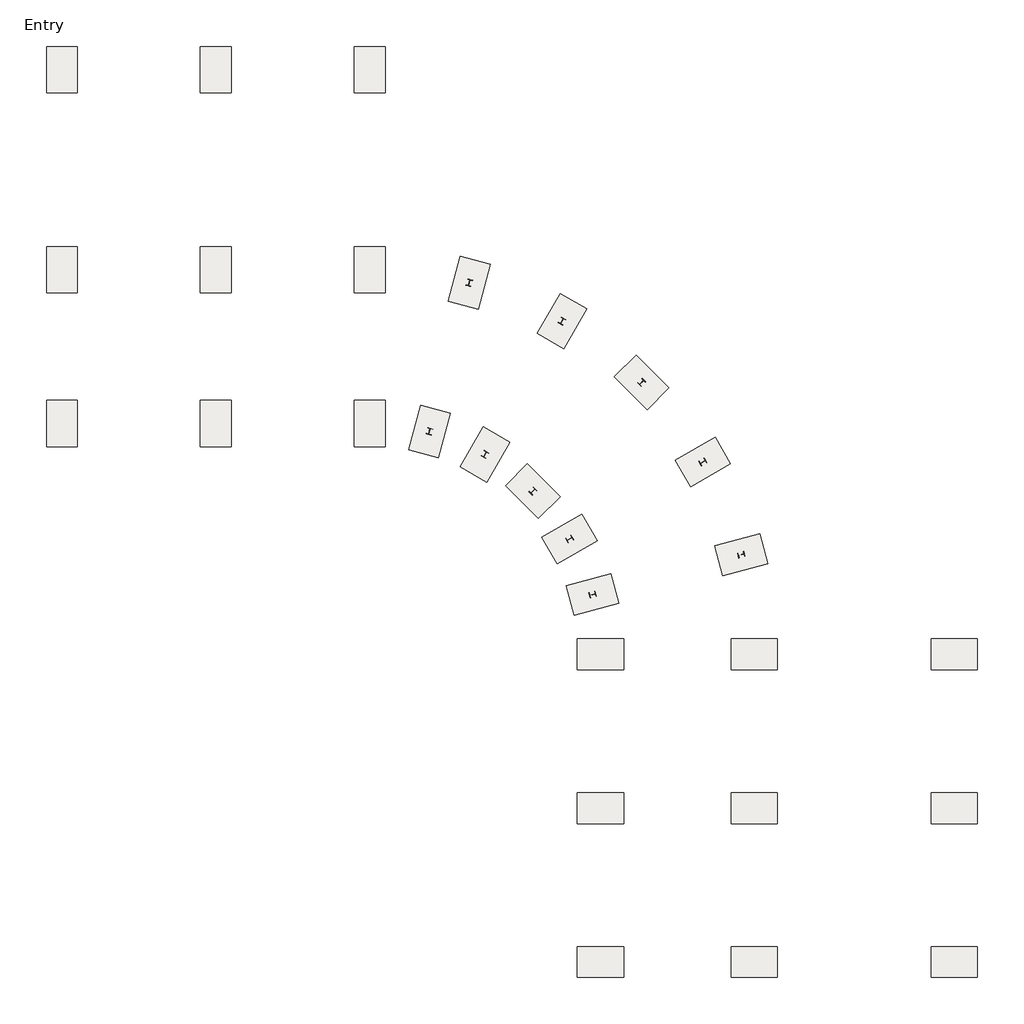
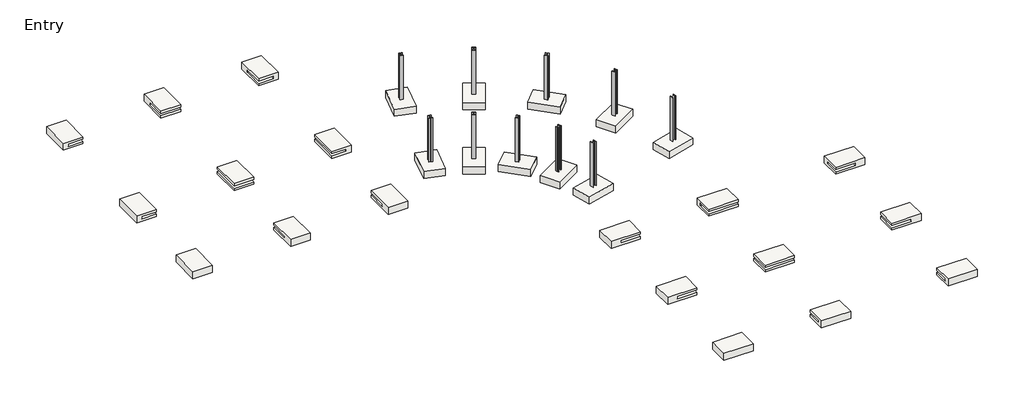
# One storey: 28 slabs, 10 columns.
"""IFC4 building model written with IfcOpenShell, lengths in millimetres."""

from ifc_helpers import new_model, si_unit, frame, origin, place, context, project, spatial, polyline, outline, extrude, faceted_brep, transform, mapped, element, save
from components import w_shapes_column_w10x33_0c464d31, slab_5ba74754

model = new_model("IFC4")

# Units and contexts
model_context = context("Model", 3, world=origin())
ifc_project = project(units=[si_unit("LENGTHUNIT", "METRE", prefix="MILLI")], contexts=[model_context])

# Site, building, storey
site = spatial("IfcSite", under=ifc_project)
building = spatial("IfcBuilding", under=site)
storey = spatial("IfcBuildingStorey", under=building, Name="Entry", Elevation=0.0)

# Columns
placement = place(None, origin())
w_shapes_column_w10x33_shape = w_shapes_column_w10x33_0c464d31(model_context)
element("IfcColumn", 1, ObjectType="W Shapes-Column : W10X33", at=placement, inside=storey, context=model_context, shape_type="MappedRepresentation", body=[
    mapped(w_shapes_column_w10x33_shape, transform((-11393.506986, -10943.4405019, 0.0), x_axis=(-0.2588190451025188, 0.9659258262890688, 0.0), y_axis=(-0.9659258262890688, -0.2588190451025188, 0.0), z_axis=(0.0, 0.0, 1.0))),
])
element("IfcColumn", 2, ObjectType="W Shapes-Column : W10X33", at=placement, inside=storey, context=model_context, shape_type="MappedRepresentation", body=[
    mapped(w_shapes_column_w10x33_shape, transform((-5505.223149, -9365.679603, 0.0), x_axis=(-0.2588190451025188, 0.9659258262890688, 0.0), y_axis=(-0.9659258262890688, -0.2588190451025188, 0.0), z_axis=(0.0, 0.0, 1.0))),
])
element("IfcColumn", 3, ObjectType="W Shapes-Column : W10X33", at=placement, inside=storey, context=model_context, shape_type="MappedRepresentation", body=[
    mapped(w_shapes_column_w10x33_shape, transform((-12306.9964494, -8738.0818503, 0.0), x_axis=(-0.49999999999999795, 0.8660254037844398, 0.0), y_axis=(-0.8660254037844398, -0.49999999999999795, 0.0), z_axis=(0.0, 0.0, 1.0))),
])
element("IfcColumn", 4, ObjectType="W Shapes-Column : W10X33", at=placement, inside=storey, context=model_context, shape_type="MappedRepresentation", body=[
    mapped(w_shapes_column_w10x33_shape, transform((-7027.7055879, -5690.0818503, 0.0), x_axis=(-0.49999999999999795, 0.8660254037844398, 0.0), y_axis=(-0.8660254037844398, -0.49999999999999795, 0.0), z_axis=(0.0, 0.0, 1.0))),
])
element("IfcColumn", 5, ObjectType="W Shapes-Column : W10X33", at=placement, inside=storey, context=model_context, shape_type="MappedRepresentation", body=[
    mapped(w_shapes_column_w10x33_shape, transform((-13760.1483344, -6844.2974432, 0.0), x_axis=(0.7071067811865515, -0.7071067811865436, 0.0), y_axis=(0.7071067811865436, 0.7071067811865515, 0.0), z_axis=(0.0, 0.0, 1.0))),
])
element("IfcColumn", 6, ObjectType="W Shapes-Column : W10X33", at=placement, inside=storey, context=model_context, shape_type="MappedRepresentation", body=[
    mapped(w_shapes_column_w10x33_shape, transform((-9449.6253963, -2533.7745051, 0.0), x_axis=(0.7071067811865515, -0.7071067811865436, 0.0), y_axis=(0.7071067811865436, 0.7071067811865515, 0.0), z_axis=(0.0, 0.0, 1.0))),
])
element("IfcColumn", 7, ObjectType="W Shapes-Column : W10X33", at=placement, inside=storey, context=model_context, shape_type="MappedRepresentation", body=[
    mapped(w_shapes_column_w10x33_shape, transform((-15653.9327416, -5391.1455581, 0.0), x_axis=(0.8660254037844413, -0.49999999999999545, 0.0), y_axis=(0.49999999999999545, 0.8660254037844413, 0.0), z_axis=(0.0, 0.0, 1.0))),
])
element("IfcColumn", 8, ObjectType="W Shapes-Column : W10X33", at=placement, inside=storey, context=model_context, shape_type="MappedRepresentation", body=[
    mapped(w_shapes_column_w10x33_shape, transform((-12605.9327416, -111.8546967, 0.0), x_axis=(0.8660254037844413, -0.49999999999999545, 0.0), y_axis=(0.49999999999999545, 0.8660254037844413, 0.0), z_axis=(0.0, 0.0, 1.0))),
])
element("IfcColumn", 9, ObjectType="W Shapes-Column : W10X33", at=placement, inside=storey, context=model_context, shape_type="MappedRepresentation", body=[
    mapped(w_shapes_column_w10x33_shape, transform((-17859.2913932, -4477.6560948, 0.0), x_axis=(0.9659258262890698, -0.25881904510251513, 0.0), y_axis=(0.25881904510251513, 0.9659258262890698, 0.0), z_axis=(0.0, 0.0, 1.0))),
])
element("IfcColumn", 10, ObjectType="W Shapes-Column : W10X33", at=placement, inside=storey, context=model_context, shape_type="MappedRepresentation", body=[
    mapped(w_shapes_column_w10x33_shape, transform((-16281.5304942, 1410.6277423, 0.0), x_axis=(0.9659258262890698, -0.25881904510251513, 0.0), y_axis=(0.25881904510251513, 0.9659258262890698, 0.0), z_axis=(0.0, 0.0, 1.0))),
])

# Slabs
element("IfcSlab", 11, ObjectType="Footing-Rectangular : 72\" x 48\" x 18\"", at=placement, inside=storey, context=model_context, shape_type="Brep", body=[
    faceted_brep([(-20835.5327416, 8940.3181497, -1676.4), (-19616.3327416, 8940.3181497, -1676.4), (-19616.3327416, 10769.1181497, -1676.4), (-20835.5327416, 10769.1181497, -1676.4), (-20835.5327416, 8940.3181497, -2133.6), (-20835.5327416, 10769.1181497, -2133.6), (-19616.3327416, 10769.1181497, -2133.6), (-19616.3327416, 8940.3181497, -2133.6), (-20835.5327416, 8940.3181497, -1828.8), (-19921.1327416, 8940.3181497, -1828.8), (-19921.1327416, 8940.3181497, -1981.2), (-20835.5327416, 8940.3181497, -1981.2), (-20835.5327416, 10159.5181497, -1981.2), (-20835.5327416, 10159.5181497, -1828.8), (-19921.1327416, 10159.5181497, -1981.2), (-19921.1327416, 10159.5181497, -1828.8)], [[[0, 1, 2, 3]], [[4, 5, 6, 7]], [[1, 0, 8, 9, 10, 11, 4, 7]], [[2, 1, 7, 6]], [[3, 2, 6, 5]], [[0, 3, 5, 4, 11, 12, 13, 8]], [[14, 12, 11, 10]], [[15, 9, 8, 13]], [[15, 14, 10, 9]], [[14, 15, 13, 12]]]),
])
element("IfcSlab", 12, ObjectType="Footing-Rectangular : 72\" x 48\" x 18\"", at=placement, inside=storey, context=model_context, shape_type="SweptSolid", body=[
    extrude(outline(polyline([(8940.3181497, -1676.4), (10769.1181497, -1676.4), (10769.1181497, -2133.6), (8940.3181497, -2133.6), (8940.3181497, -1981.2), (10159.5181497, -1981.2), (10159.5181497, -1828.8), (8940.3181497, -1828.8), (8940.3181497, -1676.4)])), frame((-26931.5327416, 0.0, 0.0), z_axis=(1.0, 0.0, 0.0), x_axis=(0.0, 1.0, 0.0)), (0.0, 0.0, 1.0), 1219.2),
])
element("IfcSlab", 13, ObjectType="Footing-Rectangular : 72\" x 48\" x 18\"", at=placement, inside=storey, context=model_context, shape_type="Brep", body=[
    faceted_brep([(-33027.5327416, 8940.3181497, -1676.4), (-31808.3327416, 8940.3181497, -1676.4), (-31808.3327416, 10769.1181497, -1676.4), (-33027.5327416, 10769.1181497, -1676.4), (-33027.5327416, 8940.3181497, -2133.6), (-33027.5327416, 10769.1181497, -2133.6), (-31808.3327416, 10769.1181497, -2133.6), (-31808.3327416, 8940.3181497, -2133.6), (-31808.3327416, 8940.3181497, -1981.2), (-32722.7327416, 8940.3181497, -1981.2), (-32722.7327416, 8940.3181497, -1828.8), (-31808.3327416, 8940.3181497, -1828.8), (-31808.3327416, 10159.5181497, -1828.8), (-31808.3327416, 10159.5181497, -1981.2), (-32722.7327416, 10159.5181497, -1981.2), (-32722.7327416, 10159.5181497, -1828.8)], [[[0, 1, 2, 3]], [[4, 5, 6, 7]], [[1, 0, 4, 7, 8, 9, 10, 11]], [[2, 1, 11, 12, 13, 8, 7, 6]], [[3, 2, 6, 5]], [[0, 3, 5, 4]], [[13, 14, 9, 8]], [[10, 15, 12, 11]], [[14, 15, 10, 9]], [[15, 14, 13, 12]]]),
])
element("IfcSlab", 14, ObjectType="Footing-Rectangular : 72\" x 48\" x 18\"", at=placement, inside=storey, context=model_context, shape_type="Brep", body=[
    faceted_brep([(-19616.3327416, -3251.6818503, -1676.4), (-20835.5327416, -3251.6818503, -1676.4), (-20835.5327416, -5080.4818503, -1676.4), (-19616.3327416, -5080.4818503, -1676.4), (-19616.3327416, -3251.6818503, -2133.6), (-19616.3327416, -5080.4818503, -2133.6), (-20835.5327416, -5080.4818503, -2133.6), (-20835.5327416, -3251.6818503, -2133.6), (-20835.5327416, -3251.6818503, -1981.2), (-19921.1327416, -3251.6818503, -1981.2), (-19921.1327416, -3251.6818503, -1828.8), (-20835.5327416, -3251.6818503, -1828.8), (-20835.5327416, -4470.8818503, -1828.8), (-20835.5327416, -4470.8818503, -1981.2), (-19921.1327416, -4470.8818503, -1981.2), (-19921.1327416, -4470.8818503, -1828.8)], [[[0, 1, 2, 3]], [[4, 5, 6, 7]], [[1, 0, 4, 7, 8, 9, 10, 11]], [[2, 1, 11, 12, 13, 8, 7, 6]], [[3, 2, 6, 5]], [[0, 3, 5, 4]], [[13, 14, 9, 8]], [[10, 15, 12, 11]], [[14, 15, 10, 9]], [[15, 14, 13, 12]]]),
])
element("IfcSlab", 15, ObjectType="Footing-Rectangular : 72\" x 48\" x 18\"", at=placement, inside=storey, context=model_context, shape_type="SweptSolid", body=[
    extrude(outline(polyline([(-1676.4, -19616.3327416), (-1676.4, -20835.5327416), (-1828.8, -20835.5327416), (-1828.8, -19921.1327416), (-1981.2, -19921.1327416), (-1981.2, -20835.5327416), (-2133.6, -20835.5327416), (-2133.6, -19616.3327416), (-1676.4, -19616.3327416)])), frame((0.0, 1015.5181497, 0.0), z_axis=(0.0, 1.0, 0.0), x_axis=(0.0, 0.0, 1.0)), (0.0, 0.0, 1.0), 1828.8),
])
element("IfcSlab", 16, ObjectType="Footing-Rectangular : 72\" x 48\" x 18\"", at=placement, inside=storey, context=model_context, shape_type="SweptSolid", body=[
    extrude(outline(polyline([(-25712.3327416, 1015.5181497), (-26931.5327416, 1015.5181497), (-26931.5327416, 2844.3181497), (-25712.3327416, 2844.3181497), (-25712.3327416, 1015.5181497)])), frame((0.0, 0.0, -1828.8), z_axis=(0.0, 0.0, 1.0), x_axis=(1.0, 0.0, 0.0)), (0.0, 0.0, 1.0), 152.4),
    extrude(outline(polyline([(-26931.5327416, 1015.5181497), (-26931.5327416, 2844.3181497), (-25712.3327416, 2844.3181497), (-25712.3327416, 1015.5181497), (-26931.5327416, 1015.5181497)])), frame((0.0, 0.0, -2133.6), z_axis=(0.0, 0.0, 1.0), x_axis=(1.0, 0.0, 0.0)), (0.0, 0.0, 1.0), 152.4),
])
element("IfcSlab", 17, ObjectType="Footing-Rectangular : 72\" x 48\" x 18\"", at=placement, inside=storey, context=model_context, shape_type="SweptSolid", body=[
    extrude(outline(polyline([(-1676.4, -31808.3327416), (-1676.4, -33027.5327416), (-2133.6, -33027.5327416), (-2133.6, -31808.3327416), (-1981.2, -31808.3327416), (-1981.2, -32722.7327416), (-1828.8, -32722.7327416), (-1828.8, -31808.3327416), (-1676.4, -31808.3327416)])), frame((0.0, 1015.5181497, 0.0), z_axis=(0.0, 1.0, 0.0), x_axis=(0.0, 0.0, 1.0)), (0.0, 0.0, 1.0), 1828.8),
])
element("IfcSlab", 18, ObjectType="Footing-Rectangular : 72\" x 48\" x 18\"", at=placement, inside=storey, context=model_context, shape_type="SweptSolid", body=[
    extrude(outline(polyline([(-5080.4818503, -1676.4), (-3251.6818503, -1676.4), (-3251.6818503, -1828.8), (-4470.8818503, -1828.8), (-4470.8818503, -1981.2), (-3251.6818503, -1981.2), (-3251.6818503, -2133.6), (-5080.4818503, -2133.6), (-5080.4818503, -1676.4)])), frame((-26931.5327416, 0.0, 0.0), z_axis=(1.0, 0.0, 0.0), x_axis=(0.0, 1.0, 0.0)), (0.0, 0.0, 1.0), 1219.2),
])
element("IfcSlab", 19, ObjectType="Footing-Rectangular : 72\" x 48\" x 18\"", at=placement, inside=storey, context=model_context, shape_type="Brep", body=[
    faceted_brep([(-33027.5327416, -5080.4818503, -1676.4), (-31808.3327416, -5080.4818503, -1676.4), (-31808.3327416, -3251.6818503, -1676.4), (-33027.5327416, -3251.6818503, -1676.4), (-33027.5327416, -5080.4818503, -2133.6), (-33027.5327416, -3251.6818503, -2133.6), (-31808.3327416, -3251.6818503, -2133.6), (-31808.3327416, -5080.4818503, -2133.6), (-31808.3327416, -3251.6818503, -1981.2), (-31808.3327416, -4470.8818503, -1981.2), (-31808.3327416, -4470.8818503, -1828.8), (-31808.3327416, -3251.6818503, -1828.8), (-32722.7327416, -3251.6818503, -1828.8), (-32722.7327416, -3251.6818503, -1981.2), (-32722.7327416, -4470.8818503, -1981.2), (-32722.7327416, -4470.8818503, -1828.8)], [[[0, 1, 2, 3]], [[4, 5, 6, 7]], [[1, 0, 4, 7]], [[2, 1, 7, 6, 8, 9, 10, 11]], [[3, 2, 11, 12, 13, 8, 6, 5]], [[0, 3, 5, 4]], [[13, 14, 9, 8]], [[10, 15, 12, 11]], [[14, 15, 10, 9]], [[15, 14, 13, 12]]]),
])
element("IfcSlab", 20, ObjectType="Footing-Rectangular : 72\" x 48\" x 18\"", at=placement, inside=storey, context=model_context, shape_type="Brep", body=[
    faceted_brep([(2024.4672584, -12700.4818503, -1676.4), (2024.4672584, -13919.6818503, -1676.4), (3853.2672584, -13919.6818503, -1676.4), (3853.2672584, -12700.4818503, -1676.4), (3853.2672584, -13919.6818503, -2133.6), (2024.4672584, -13919.6818503, -2133.6), (2024.4672584, -12700.4818503, -2133.6), (3853.2672584, -12700.4818503, -2133.6), (2024.4672584, -13919.6818503, -1981.2), (2024.4672584, -13005.2818503, -1981.2), (2024.4672584, -13005.2818503, -1828.8), (2024.4672584, -13919.6818503, -1828.8), (3243.6672584, -13919.6818503, -1828.8), (3243.6672584, -13919.6818503, -1981.2), (3243.6672584, -13005.2818503, -1981.2), (3243.6672584, -13005.2818503, -1828.8)], [[[0, 1, 2, 3]], [[4, 5, 6, 7]], [[1, 0, 6, 5, 8, 9, 10, 11]], [[0, 3, 7, 6]], [[3, 2, 4, 7]], [[2, 1, 11, 12, 13, 8, 5, 4]], [[14, 9, 8, 13]], [[15, 12, 11, 10]], [[14, 15, 10, 9]], [[15, 14, 13, 12]]]),
])
element("IfcSlab", 21, ObjectType="Footing-Rectangular : 72\" x 48\" x 18\"", at=placement, inside=storey, context=model_context, shape_type="SweptSolid", body=[
    extrude(outline(polyline([(-1676.4, 3853.2672584), (-1676.4, 2024.4672584), (-1828.8, 2024.4672584), (-1828.8, 3243.6672584), (-1981.2, 3243.6672584), (-1981.2, 2024.4672584), (-2133.6, 2024.4672584), (-2133.6, 3853.2672584), (-1676.4, 3853.2672584)])), frame((0.0, -20015.6818503, 0.0), z_axis=(0.0, 1.0, 0.0), x_axis=(0.0, 0.0, 1.0)), (0.0, 0.0, 1.0), 1219.2),
])
element("IfcSlab", 22, ObjectType="Footing-Rectangular : 72\" x 48\" x 18\"", at=placement, inside=storey, context=model_context, shape_type="Brep", body=[
    faceted_brep([(2024.4672584, -24892.4818503, -1676.4), (2024.4672584, -26111.6818503, -1676.4), (3853.2672584, -26111.6818503, -1676.4), (3853.2672584, -24892.4818503, -1676.4), (3853.2672584, -26111.6818503, -2133.6), (2024.4672584, -26111.6818503, -2133.6), (2024.4672584, -24892.4818503, -2133.6), (3853.2672584, -24892.4818503, -2133.6), (2024.4672584, -24892.4818503, -1828.8), (2024.4672584, -25806.8818503, -1828.8), (2024.4672584, -25806.8818503, -1981.2), (2024.4672584, -24892.4818503, -1981.2), (3243.6672584, -24892.4818503, -1981.2), (3243.6672584, -24892.4818503, -1828.8), (3243.6672584, -25806.8818503, -1981.2), (3243.6672584, -25806.8818503, -1828.8)], [[[0, 1, 2, 3]], [[4, 5, 6, 7]], [[1, 0, 8, 9, 10, 11, 6, 5]], [[0, 3, 7, 6, 11, 12, 13, 8]], [[3, 2, 4, 7]], [[2, 1, 5, 4]], [[10, 14, 12, 11]], [[13, 15, 9, 8]], [[15, 14, 10, 9]], [[14, 15, 13, 12]]]),
])
element("IfcSlab", 23, ObjectType="Footing-Rectangular : 72\" x 48\" x 18\"", at=placement, inside=storey, context=model_context, shape_type="Brep", body=[
    faceted_brep([(-10167.5327416, -13919.6818503, -1676.4), (-10167.5327416, -12700.4818503, -1676.4), (-11996.3327416, -12700.4818503, -1676.4), (-11996.3327416, -13919.6818503, -1676.4), (-11996.3327416, -12700.4818503, -2133.6), (-10167.5327416, -12700.4818503, -2133.6), (-10167.5327416, -13919.6818503, -2133.6), (-11996.3327416, -13919.6818503, -2133.6), (-10167.5327416, -13919.6818503, -1828.8), (-10167.5327416, -13005.2818503, -1828.8), (-10167.5327416, -13005.2818503, -1981.2), (-10167.5327416, -13919.6818503, -1981.2), (-11386.7327416, -13919.6818503, -1981.2), (-11386.7327416, -13919.6818503, -1828.8), (-11386.7327416, -13005.2818503, -1981.2), (-11386.7327416, -13005.2818503, -1828.8)], [[[0, 1, 2, 3]], [[4, 5, 6, 7]], [[1, 0, 8, 9, 10, 11, 6, 5]], [[0, 3, 7, 6, 11, 12, 13, 8]], [[3, 2, 4, 7]], [[2, 1, 5, 4]], [[10, 14, 12, 11]], [[13, 15, 9, 8]], [[15, 14, 10, 9]], [[14, 15, 13, 12]]]),
])
element("IfcSlab", 24, ObjectType="Footing-Rectangular : 72\" x 48\" x 18\"", at=placement, inside=storey, context=model_context, shape_type="SweptSolid", body=[
    extrude(outline(polyline([(-13919.6818503, -1676.4), (-12700.4818503, -1676.4), (-12700.4818503, -2133.6), (-13919.6818503, -2133.6), (-13919.6818503, -1981.2), (-13005.2818503, -1981.2), (-13005.2818503, -1828.8), (-13919.6818503, -1828.8), (-13919.6818503, -1676.4)])), frame((-5900.3327416, 0.0, 0.0), z_axis=(1.0, 0.0, 0.0), x_axis=(0.0, 1.0, 0.0)), (0.0, 0.0, 1.0), 1828.8),
])
element("IfcSlab", 25, ObjectType="Footing-Rectangular : 72\" x 48\" x 18\"", at=placement, inside=storey, context=model_context, shape_type="SweptSolid", body=[
    extrude(outline(polyline([(-5900.3327416, -20015.6818503), (-5900.3327416, -18796.4818503), (-4071.5327416, -18796.4818503), (-4071.5327416, -20015.6818503), (-5900.3327416, -20015.6818503)])), frame((0.0, 0.0, -1828.8), z_axis=(0.0, 0.0, 1.0), x_axis=(1.0, 0.0, 0.0)), (0.0, 0.0, 1.0), 152.4),
    extrude(outline(polyline([(-4071.5327416, -20015.6818503), (-5900.3327416, -20015.6818503), (-5900.3327416, -18796.4818503), (-4071.5327416, -18796.4818503), (-4071.5327416, -20015.6818503)])), frame((0.0, 0.0, -2133.6), z_axis=(0.0, 0.0, 1.0), x_axis=(1.0, 0.0, 0.0)), (0.0, 0.0, 1.0), 152.4),
])
element("IfcSlab", 26, ObjectType="Footing-Rectangular : 72\" x 48\" x 18\"", at=placement, inside=storey, context=model_context, shape_type="SweptSolid", body=[
    extrude(outline(polyline([(-26111.6818503, -1676.4), (-24892.4818503, -1676.4), (-24892.4818503, -1828.8), (-25806.8818503, -1828.8), (-25806.8818503, -1981.2), (-24892.4818503, -1981.2), (-24892.4818503, -2133.6), (-26111.6818503, -2133.6), (-26111.6818503, -1676.4)])), frame((-5900.3327416, 0.0, 0.0), z_axis=(1.0, 0.0, 0.0), x_axis=(0.0, 1.0, 0.0)), (0.0, 0.0, 1.0), 1828.8),
])
element("IfcSlab", 27, ObjectType="Footing-Rectangular : 72\" x 48\" x 18\"", at=placement, inside=storey, context=model_context, shape_type="SweptSolid", body=[
    extrude(outline(polyline([(-1676.4, -10167.5327416), (-1676.4, -11996.3327416), (-2133.6, -11996.3327416), (-2133.6, -10167.5327416), (-1981.2, -10167.5327416), (-1981.2, -11386.7327416), (-1828.8, -11386.7327416), (-1828.8, -10167.5327416), (-1676.4, -10167.5327416)])), frame((0.0, -20015.6818503, 0.0), z_axis=(0.0, 1.0, 0.0), x_axis=(0.0, 0.0, 1.0)), (0.0, 0.0, 1.0), 1219.2),
])
element("IfcSlab", 28, ObjectType="Footing-Rectangular : 72\" x 48\" x 18\"", at=placement, inside=storey, context=model_context, shape_type="Brep", body=[
    faceted_brep([(-11996.3327416, -24892.4818503, -1676.4), (-11996.3327416, -26111.6818503, -1676.4), (-10167.5327416, -26111.6818503, -1676.4), (-10167.5327416, -24892.4818503, -1676.4), (-10167.5327416, -26111.6818503, -2133.6), (-11996.3327416, -26111.6818503, -2133.6), (-11996.3327416, -24892.4818503, -2133.6), (-10167.5327416, -24892.4818503, -2133.6), (-10167.5327416, -24892.4818503, -1828.8), (-11386.7327416, -24892.4818503, -1828.8), (-11386.7327416, -24892.4818503, -1981.2), (-10167.5327416, -24892.4818503, -1981.2), (-10167.5327416, -25806.8818503, -1981.2), (-10167.5327416, -25806.8818503, -1828.8), (-11386.7327416, -25806.8818503, -1981.2), (-11386.7327416, -25806.8818503, -1828.8)], [[[0, 1, 2, 3]], [[4, 5, 6, 7]], [[1, 0, 6, 5]], [[0, 3, 8, 9, 10, 11, 7, 6]], [[3, 2, 4, 7, 11, 12, 13, 8]], [[2, 1, 5, 4]], [[10, 14, 12, 11]], [[13, 15, 9, 8]], [[15, 14, 10, 9]], [[14, 15, 13, 12]]]),
])
slab_shape = slab_5ba74754(model_context)
element("IfcSlab", 29, ObjectType="Footing-Rectangular : 72\" x 48\" x 18\"", at=placement, inside=storey, context=model_context, shape_type="MappedRepresentation", body=[
    mapped(slab_shape, transform((-11393.506986, -10943.4405019, 0.0), x_axis=(-0.2588190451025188, 0.9659258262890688, 0.0), y_axis=(-0.9659258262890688, -0.2588190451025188, 0.0), z_axis=(0.0, 0.0, 1.0))),
])
element("IfcSlab", 30, ObjectType="Footing-Rectangular : 72\" x 48\" x 18\"", at=placement, inside=storey, context=model_context, shape_type="MappedRepresentation", body=[
    mapped(slab_shape, transform((-12306.9964494, -8738.0818503, 0.0), x_axis=(-0.49999999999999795, 0.8660254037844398, 0.0), y_axis=(-0.8660254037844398, -0.49999999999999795, 0.0), z_axis=(0.0, 0.0, 1.0))),
])
element("IfcSlab", 31, ObjectType="Footing-Rectangular : 72\" x 48\" x 18\"", at=placement, inside=storey, context=model_context, shape_type="MappedRepresentation", body=[
    mapped(slab_shape, transform((-13760.1483344, -6844.2974432, 0.0), x_axis=(0.7071067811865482, 0.7071067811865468, 0.0), y_axis=(-0.7071067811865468, 0.7071067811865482, 0.0), z_axis=(0.0, 0.0, 1.0))),
])
element("IfcSlab", 32, ObjectType="Footing-Rectangular : 72\" x 48\" x 18\"", at=placement, inside=storey, context=model_context, shape_type="MappedRepresentation", body=[
    mapped(slab_shape, transform((-15653.9327416, -5391.1455581, 0.0), x_axis=(0.8660254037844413, -0.49999999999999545, 0.0), y_axis=(0.49999999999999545, 0.8660254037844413, 0.0), z_axis=(0.0, 0.0, 1.0))),
])
element("IfcSlab", 33, ObjectType="Footing-Rectangular : 72\" x 48\" x 18\"", at=placement, inside=storey, context=model_context, shape_type="MappedRepresentation", body=[
    mapped(slab_shape, transform((-17859.2913932, -4477.6560948, 0.0), x_axis=(0.9659258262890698, -0.25881904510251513, 0.0), y_axis=(0.25881904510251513, 0.9659258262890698, 0.0), z_axis=(0.0, 0.0, 1.0))),
])
element("IfcSlab", 34, ObjectType="Footing-Rectangular : 72\" x 48\" x 18\"", at=placement, inside=storey, context=model_context, shape_type="MappedRepresentation", body=[
    mapped(slab_shape, transform((-5505.223149, -9365.679603, 0.0), x_axis=(-0.2588190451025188, 0.9659258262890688, 0.0), y_axis=(-0.9659258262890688, -0.2588190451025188, 0.0), z_axis=(0.0, 0.0, 1.0))),
])
element("IfcSlab", 35, ObjectType="Footing-Rectangular : 72\" x 48\" x 18\"", at=placement, inside=storey, context=model_context, shape_type="MappedRepresentation", body=[
    mapped(slab_shape, transform((-7027.7055879, -5690.0818503, 0.0), x_axis=(-0.49999999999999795, 0.8660254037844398, 0.0), y_axis=(-0.8660254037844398, -0.49999999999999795, 0.0), z_axis=(0.0, 0.0, 1.0))),
])
element("IfcSlab", 36, ObjectType="Footing-Rectangular : 72\" x 48\" x 18\"", at=placement, inside=storey, context=model_context, shape_type="MappedRepresentation", body=[
    mapped(slab_shape, transform((-9449.6253963, -2533.7745051, 0.0), x_axis=(0.7071067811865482, 0.7071067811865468, 0.0), y_axis=(-0.7071067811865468, 0.7071067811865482, 0.0), z_axis=(0.0, 0.0, 1.0))),
])
element("IfcSlab", 37, ObjectType="Footing-Rectangular : 72\" x 48\" x 18\"", at=placement, inside=storey, context=model_context, shape_type="MappedRepresentation", body=[
    mapped(slab_shape, transform((-12605.9327416, -111.8546967, 0.0), x_axis=(0.8660254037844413, -0.49999999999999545, 0.0), y_axis=(0.49999999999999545, 0.8660254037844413, 0.0), z_axis=(0.0, 0.0, 1.0))),
])
element("IfcSlab", 38, ObjectType="Footing-Rectangular : 72\" x 48\" x 18\"", at=placement, inside=storey, context=model_context, shape_type="MappedRepresentation", body=[
    mapped(slab_shape, transform((-16281.5304942, 1410.6277423, 0.0), x_axis=(0.9659258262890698, -0.25881904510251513, 0.0), y_axis=(0.25881904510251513, 0.9659258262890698, 0.0), z_axis=(0.0, 0.0, 1.0))),
])

save(model, "model.ifc")
